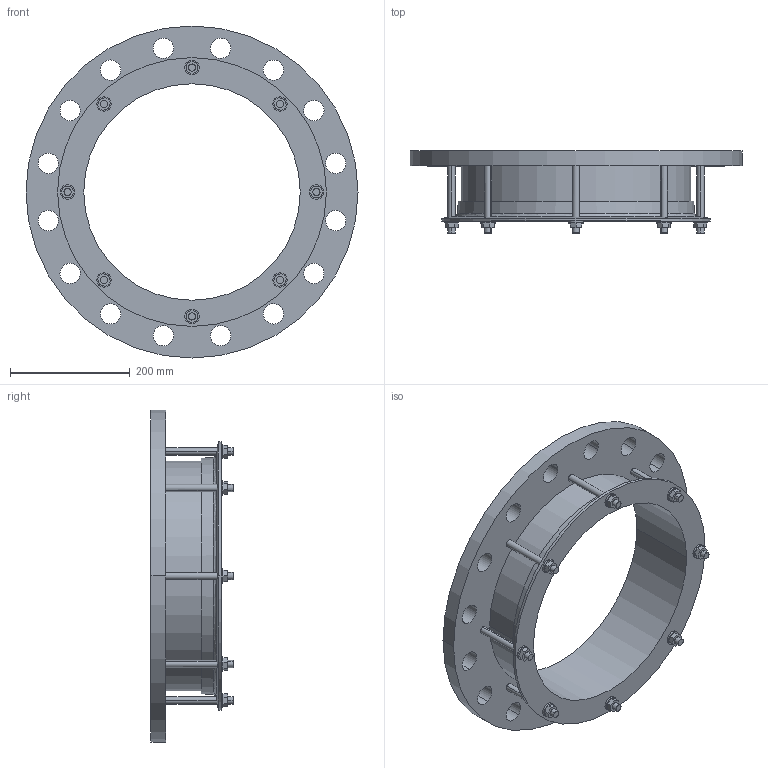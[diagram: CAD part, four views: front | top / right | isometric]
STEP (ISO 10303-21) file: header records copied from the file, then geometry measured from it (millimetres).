
FILE_DESCRIPTION((''),'2;1');
FILE_NAME('359X350PN25','2019-04-04T',('mfairey'),('Glynwed Pipe Systems'),'CREO PARAMETRIC BY PTC INC, 2016130','CREO PARAMETRIC BY PTC INC, 2016130','');
FILE_SCHEMA(('CONFIG_CONTROL_DESIGN'));
Length unit declared in the file: millimetre
Products named in the file (1): 359X350PN25
Bounding box: 555 x 137.45 x 555 mm (x, y, z)
Volume: 4892913.2 mm3; surface area: 692470.5 mm2
Topology: 1 solids, 1 shells, 170 faces, 446 edges, 296 vertices
Faces by surface type: cylinder 88, plane 76, cone 4, torus 2
Entity records: 5830 total; most frequent: CARTESIAN_POINT 1384, DIRECTION 924, ORIENTED_EDGE 892, EDGE_CURVE 446, AXIS2_PLACEMENT_3D 344, VERTEX_POINT 296, EDGE_LOOP 238, VECTOR 236
